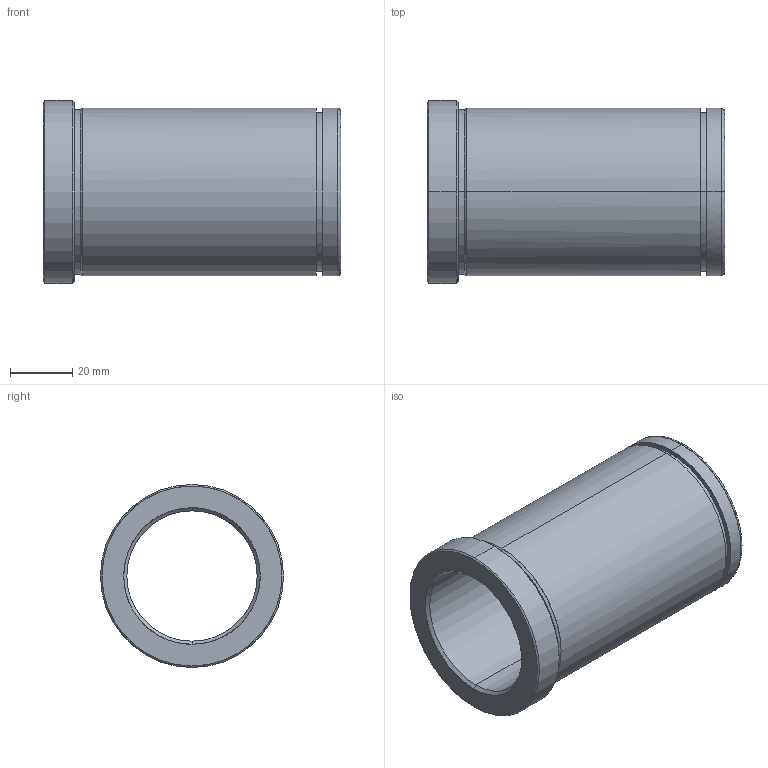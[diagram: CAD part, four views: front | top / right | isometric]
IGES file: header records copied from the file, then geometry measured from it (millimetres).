
Start section: START RECORD GO HERE.
Global section: file name: 553-42X96.igs; native system: DASSAULT SYSTEMES CATIA V5 R20 - www.3ds.com; preprocessor: CATIA Version 5 Release 20 ; author: Utente; organization: NB04-ASUS; date: 20210608.195015; units: millimetre
Bounding box: 96 x 59 x 59 mm (x, y, z)
Surface area: 31968.5 mm2 (no closed solid volume)
Topology: 0 solids, 0 shells, 29 faces, 184 edges, 184 vertices
Faces by surface type: revolution 24, plane 5
